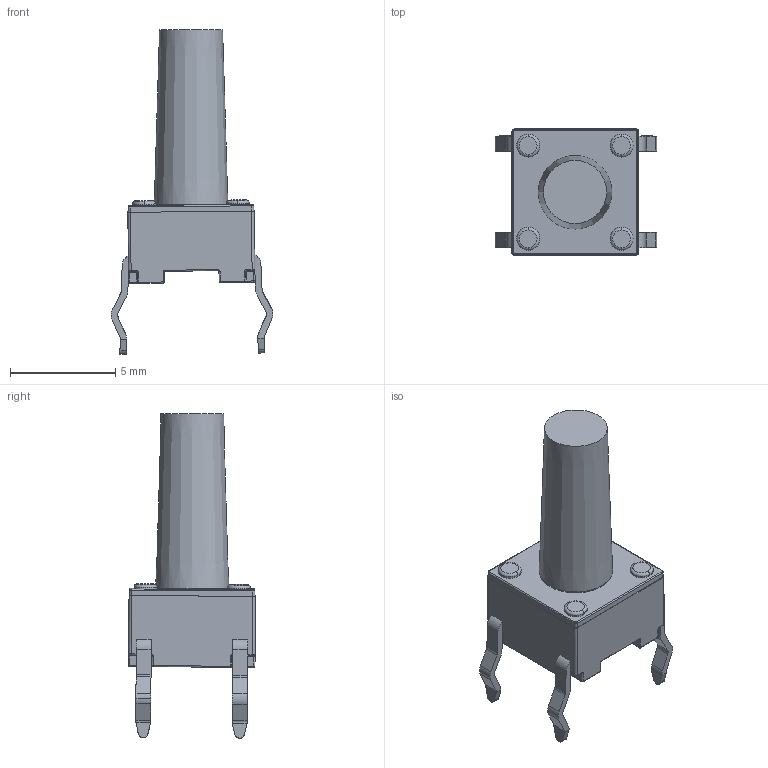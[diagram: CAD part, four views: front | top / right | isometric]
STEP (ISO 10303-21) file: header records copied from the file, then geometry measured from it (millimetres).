
FILE_DESCRIPTION(('FreeCAD Model'),'2;1');
FILE_NAME('C:/Users/Metaltex-99/Desktop/A06/A06-12.0.stp', '2021-08-13T14:57:28',('Engenharia Metaltex'),('Metaltex'), 'Open CASCADE STEP processor 7.3','FreeCAD','Unknown');
FILE_SCHEMA(('AUTOMOTIVE_DESIGN { 1 0 10303 214 1 1 1 1 }'));
Length unit declared in the file: millimetre
Products named in the file (3): A06-12.0; Cilindro; Base
Assembly tree (2 placements, depth 2):
  A06-12.0
    Cilindro
    Base
Bounding box: 7.69 x 6.03 x 15.44 mm (x, y, z)
Volume: 194.9 mm3; surface area: 302.5 mm2
Topology: 2 solids, 2 shells, 294 faces, 716 edges, 408 vertices
Faces by surface type: cylinder 139, plane 90, torus 38, sphere 24, revolution 2, cone 1
Full cylindrical faces by diameter (mm): 3.46 x1
Entity records: 20696 total; most frequent: CARTESIAN_POINT 4354, DIRECTION 2863, LINE 1523, VECTOR 1523, ORIENTED_EDGE 1384, PCURVE 1384, DEFINITIONAL_REPRESENTATION 1384, EDGE_CURVE 692
